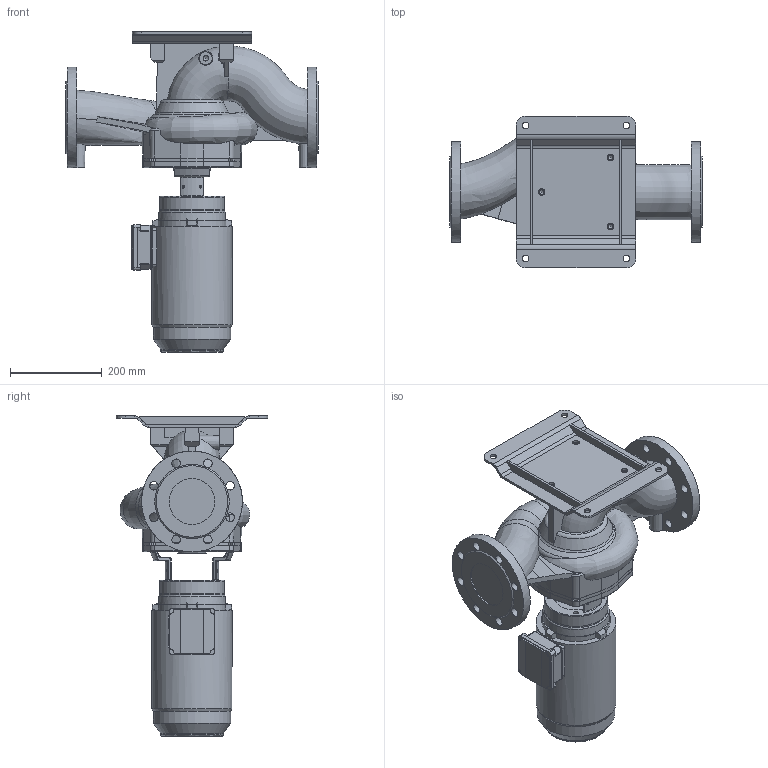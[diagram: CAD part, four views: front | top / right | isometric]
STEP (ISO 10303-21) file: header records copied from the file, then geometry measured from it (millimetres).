
FILE_DESCRIPTION (( 'STEP AP203' ), '1' );
FILE_NAME ('KI100-145_4_1,5kW.STEP', '2024-07-29T10:46:47', ( '' ), ( '' ), 'SwSTEP 2.0', 'SolidWorks 2023', '' );
FILE_SCHEMA (( 'CONFIG_CONTROL_DESIGN' ));
Length unit declared in the file: millimetre
Products named in the file (11): 230409; 230031; KI100-145_4_1,5kW; 220543; 230408; 230034; HMA3_90L-4_solid; 220542; 230500; 230033; 230501
Assembly tree (11 placements, depth 3):
  KI100-145_4_1,5kW
    HMA3_90L-4_solid
    230409
      230408
    230501
      230500
    220543
      220542
    230034
      230031
      230033  x2
Bounding box: 550 x 330.18 x 698.94 mm (x, y, z)
Volume: 21799588.2 mm3; surface area: 1230047.4 mm2
Topology: 7 solids, 7 shells, 860 faces, 2290 edges, 1425 vertices
Faces by surface type: plane 313, cylinder 278, bspline 111, cone 77, torus 67, sphere 14
Full cylindrical faces by diameter (mm): 5 x8, 6 x3, 6.8 x4, 7 x8, 10 x4, 10.2 x7, 11.8 x4, 14 x4, 14.5 x7, 19 x16, 95 x1, 100 x2, 136 x1, 140 x3, 164 x1, 168.6 x1, 174.6 x1, 189 x1, 220 x2
Entity records: 89297 total; most frequent: CARTESIAN_POINT 68503, ORIENTED_EDGE 4126, DIRECTION 3943, EDGE_CURVE 2063, AXIS2_PLACEMENT_3D 1537, VERTEX_POINT 1345, EDGE_LOOP 1056, FACE_OUTER_BOUND 932
